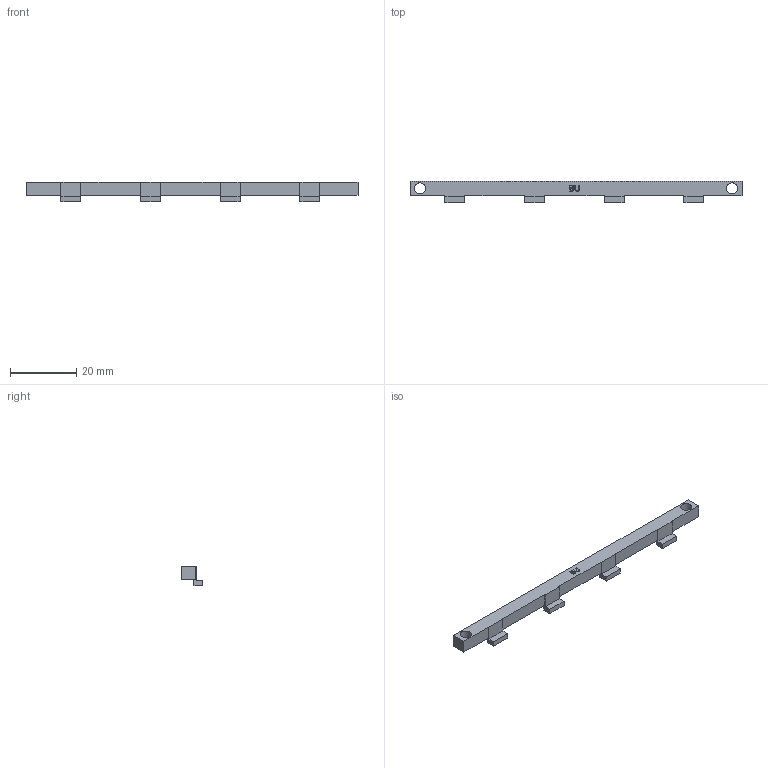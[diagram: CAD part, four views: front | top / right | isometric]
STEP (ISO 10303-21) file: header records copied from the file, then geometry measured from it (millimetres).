
FILE_DESCRIPTION(('Open CASCADE Model'),'2;1');
FILE_NAME('Open CASCADE Shape Model','2026-10-07T10:51:43',('Author'),( 'Open CASCADE'),'Open CASCADE STEP processor 7.8','Open CASCADE 7.8' ,'Unknown');
FILE_SCHEMA(('AUTOMOTIVE_DESIGN { 1 0 10303 214 1 1 1 1 }'));
Length unit declared in the file: millimetre
Products named in the file (1): Open CASCADE STEP translator 7.8 6
Bounding box: 100 x 6.6 x 5.95 mm (x, y, z)
Volume: 1814.9 mm3; surface area: 2018 mm2
Topology: 1 solids, 1 shells, 83 faces, 231 edges, 154 vertices
Faces by surface type: plane 57, extrusion 24, cylinder 2
Full cylindrical faces by diameter (mm): 3.4 x2
Entity records: 6036 total; most frequent: CARTESIAN_POINT 1701, DIRECTION 659, VECTOR 527, LINE 503, ORIENTED_EDGE 462, PCURVE 462, DEFINITIONAL_REPRESENTATION 462, EDGE_CURVE 231
